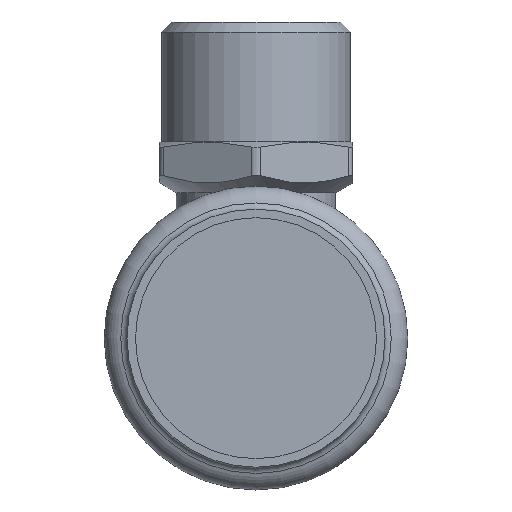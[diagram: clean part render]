
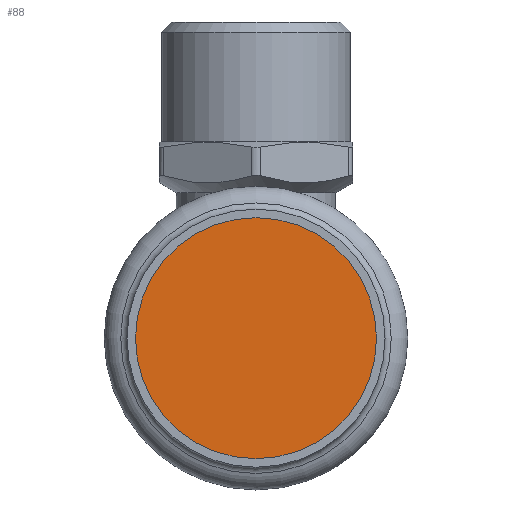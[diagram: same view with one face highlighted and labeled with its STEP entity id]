
A CAD part, front view. The second image highlights one B-rep face of the part: STEP entity #88.
In plain terms, the highlighted planar face has unit normal (0, -1, 0).
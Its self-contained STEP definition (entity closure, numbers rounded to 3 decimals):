
#88=ADVANCED_FACE('',(#381),#383,.T.);
#381=FACE_BOUND('',#382,.T.);
#382=EDGE_LOOP('',(#521));
#383=PLANE('',#384);
#384=AXIS2_PLACEMENT_3D('',#385,#386,#387);
#385=CARTESIAN_POINT('',(0.,-60.292,0.));
#386=DIRECTION('',(0.,-1.,0.));
#387=DIRECTION('',(0.,0.,-1.));
#521=ORIENTED_EDGE('',*,*,#585,.T.);
#585=EDGE_CURVE('',#699,#699,#700,.F.);
#699=VERTEX_POINT('',#2049);
#700=CIRCLE('',#2050,21.15);
#2049=CARTESIAN_POINT('',(0.,-60.292,21.15));
#2050=AXIS2_PLACEMENT_3D('',#2051,#2052,#2053);
#2051=CARTESIAN_POINT('',(0.,-60.292,0.));
#2052=DIRECTION('',(0.,1.,0.));
#2053=DIRECTION('',(0.,0.,1.));
